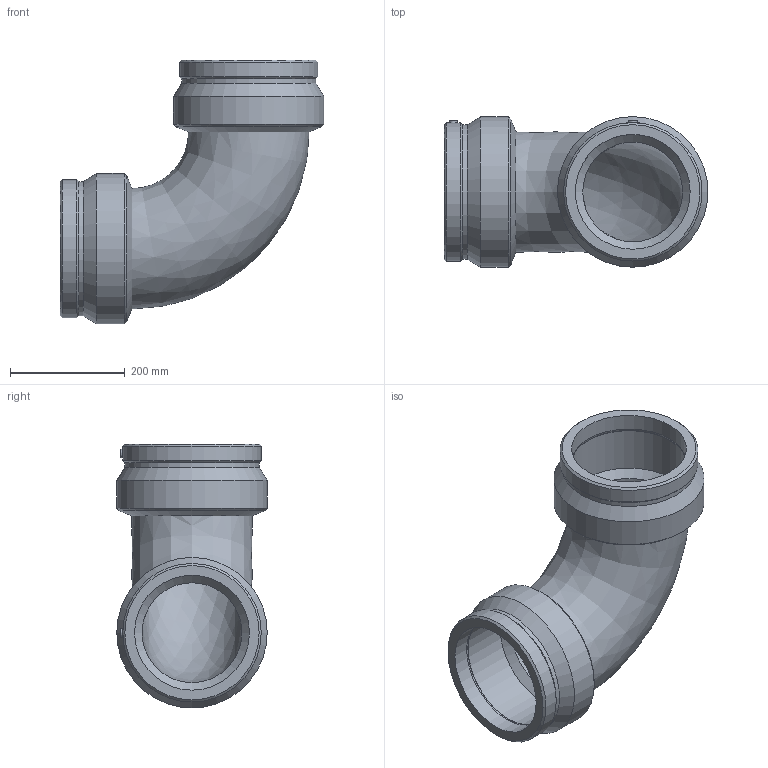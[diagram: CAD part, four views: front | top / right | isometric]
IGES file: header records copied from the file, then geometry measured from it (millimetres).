
Global section: file name: 490504200.ipt; native system: Autodesk Inventor 2015; preprocessor: unknown; author: KIM; date: 20171106.093643; units: millimetre
Bounding box: 459.48 x 262 x 459.48 mm (x, y, z)
Volume: 7956141 mm3; surface area: 804174 mm2
Topology: 1 solids, 1 shells, 42 faces, 98 edges, 64 vertices
Faces by surface type: revolution 12, cone 12, plane 10, cylinder 8
Full cylindrical faces by diameter (mm): 4 x2, 233.809 x2, 241.04 x2, 262 x2
